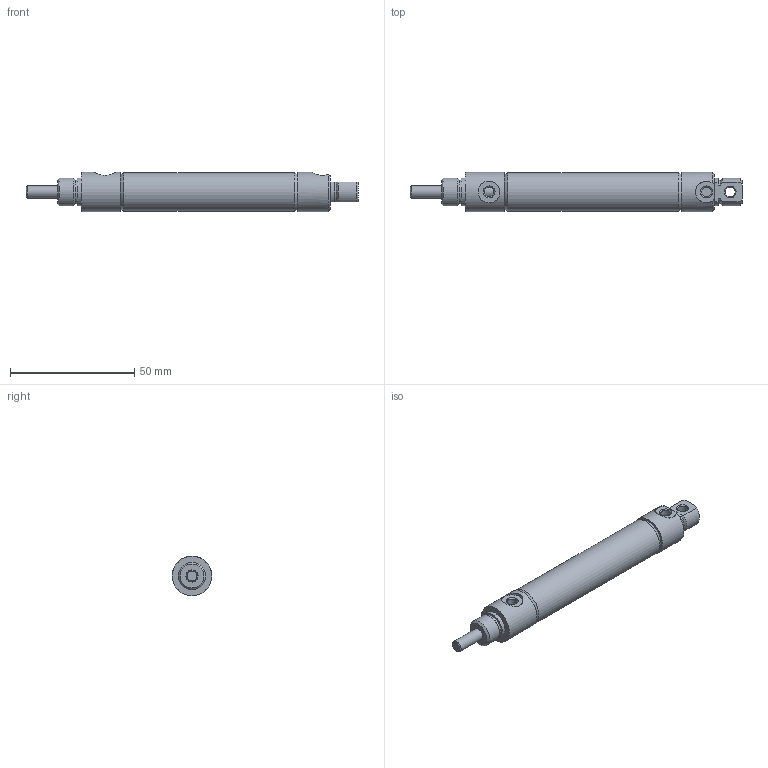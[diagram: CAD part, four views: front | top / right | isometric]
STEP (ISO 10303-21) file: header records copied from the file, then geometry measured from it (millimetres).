
FILE_DESCRIPTION( ( 'STEP AP214' ), '1' );
FILE_NAME( 'p:/temp/worker_389/temp/exporttempdir_148_83_rqOJr/format_0/0563D02-02A.stp', '2020-05-07T13:06:38', ( 'License CC BY-ND 4.0' ), ( 'CADENAS' ), ' ', 'PARTsolutions', ' ' );
FILE_SCHEMA( ( 'AUTOMOTIVE_DESIGN { 1 0 10303 214 1 1 1 1 }' ) );
Length unit declared in the file: inch
Products named in the file (3): 0563D02-02A; _0563D02-02A-0000A00A0b; _0563D02-02A-0000A00A0r
Assembly tree (2 placements, depth 2):
  0563D02-02A
    _0563D02-02A-0000A00A0b
    _0563D02-02A-0000A00A0r
Bounding box: 133.38 x 15.88 x 15.88 mm (x, y, z)
Volume: 13309 mm3; surface area: 12526.8 mm2
Topology: 2 solids, 2 shells, 58 faces, 120 edges, 77 vertices
Faces by surface type: cylinder 22, plane 22, cone 14
Full cylindrical faces by diameter (mm): 3.967 x2, 3.988 x1, 4.775 x2, 4.826 x1, 8.738 x1, 9.601 x1, 11.1 x2, 14.287 x2, 15.392 x1, 15.875 x2
Entity records: 2087 total; most frequent: CARTESIAN_POINT 422, DIRECTION 253, ORIENTED_EDGE 186, AXIS2_PLACEMENT_3D 115, EDGE_LOOP 97, EDGE_CURVE 93, VERTEX_POINT 74, FACE_OUTER_BOUND 73
